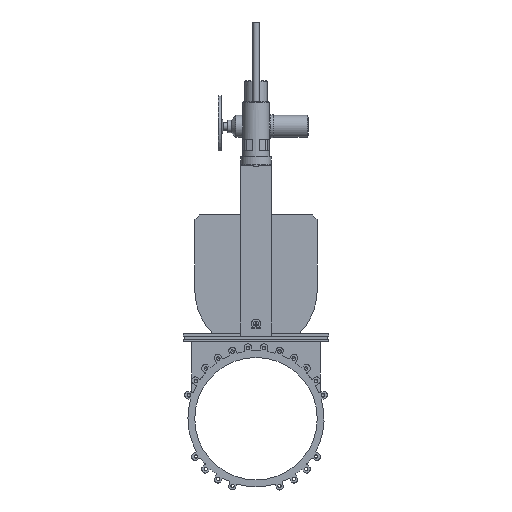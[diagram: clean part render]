
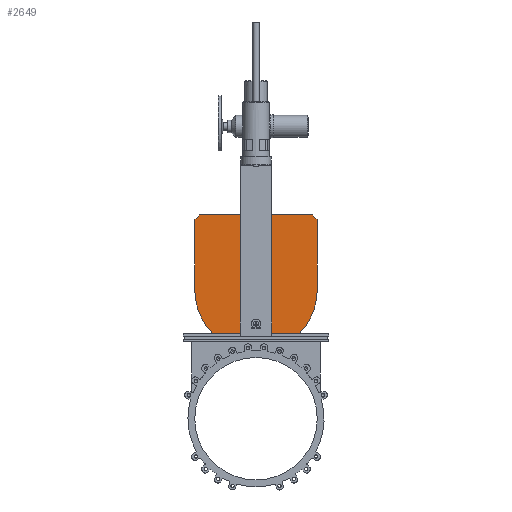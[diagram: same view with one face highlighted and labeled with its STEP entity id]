
A CAD part, front view. The second image highlights one B-rep face of the part: STEP entity #2649.
In plain terms, the highlighted planar face has unit normal (0, -1, 0).
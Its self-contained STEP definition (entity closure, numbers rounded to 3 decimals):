
#2649=ADVANCED_FACE('',(#6391),#6393,.T.);
#6391=FACE_BOUND('',#6392,.T.);
#6392=EDGE_LOOP('',(#9331,#9332,#9333,#9334,#9335,#9336,#9337,#9338,#9339,#9340,
#9341,#9342));
#6393=PLANE('',#6394);
#6394=AXIS2_PLACEMENT_3D('',#6395,#6396,#6397);
#6395=CARTESIAN_POINT('',(0.,-7.,0.));
#6396=DIRECTION('',(0.,-1.,0.));
#6397=DIRECTION('',(1.,0.,0.));
#9331=ORIENTED_EDGE('',*,*,#11648,.F.);
#9332=ORIENTED_EDGE('',*,*,#11649,.T.);
#9333=ORIENTED_EDGE('',*,*,#11650,.T.);
#9334=ORIENTED_EDGE('',*,*,#11651,.F.);
#9335=ORIENTED_EDGE('',*,*,#11652,.T.);
#9336=ORIENTED_EDGE('',*,*,#11634,.F.);
#9337=ORIENTED_EDGE('',*,*,#11653,.F.);
#9338=ORIENTED_EDGE('',*,*,#11625,.F.);
#9339=ORIENTED_EDGE('',*,*,#11647,.T.);
#9340=ORIENTED_EDGE('',*,*,#11654,.F.);
#9341=ORIENTED_EDGE('',*,*,#11655,.T.);
#9342=ORIENTED_EDGE('',*,*,#11656,.T.);
#11625=EDGE_CURVE('',#14810,#14812,#14813,.T.);
#11634=EDGE_CURVE('',#14825,#14827,#14828,.T.);
#11647=EDGE_CURVE('',#14810,#14848,#14850,.T.);
#11648=EDGE_CURVE('',#14851,#14852,#14853,.T.);
#11649=EDGE_CURVE('',#14851,#14854,#14855,.T.);
#11650=EDGE_CURVE('',#14854,#14856,#14857,.T.);
#11651=EDGE_CURVE('',#14858,#14856,#14859,.F.);
#11652=EDGE_CURVE('',#14858,#14827,#14860,.T.);
#11653=EDGE_CURVE('',#14812,#14825,#14861,.F.);
#11654=EDGE_CURVE('',#14862,#14848,#14863,.F.);
#11655=EDGE_CURVE('',#14862,#14864,#14865,.T.);
#11656=EDGE_CURVE('',#14864,#14852,#14866,.T.);
#14810=VERTEX_POINT('',#16406);
#14812=VERTEX_POINT('',#16410);
#14813=LINE('',#16411,#16412);
#14825=VERTEX_POINT('',#16439);
#14827=VERTEX_POINT('',#16443);
#14828=LINE('',#16444,#16445);
#14848=VERTEX_POINT('',#16490);
#14850=LINE('',#16494,#16495);
#14851=VERTEX_POINT('',#16497);
#14852=VERTEX_POINT('',#16498);
#14853=LINE('',#16499,#16500);
#14854=VERTEX_POINT('',#16502);
#14855=CIRCLE('',#16503,500.);
#14856=VERTEX_POINT('',#16507);
#14857=LINE('',#16508,#16509);
#14858=VERTEX_POINT('',#16511);
#14859=LINE('',#16512,#16513);
#14860=LINE('',#16515,#16516);
#14861=LINE('',#16518,#16519);
#14862=VERTEX_POINT('',#16521);
#14863=LINE('',#16522,#16523);
#14864=VERTEX_POINT('',#16525);
#14865=LINE('',#16526,#16527);
#14866=CIRCLE('',#16529,500.);
#16406=CARTESIAN_POINT('',(-35.,-7.,1665.));
#16410=CARTESIAN_POINT('',(-35.,-7.,1660.));
#16411=CARTESIAN_POINT('',(-35.,-7.,1665.));
#16412=VECTOR('',#16413,1.);
#16413=DIRECTION('',(0.,0.,-1.));
#16439=CARTESIAN_POINT('',(35.,-7.,1660.));
#16443=CARTESIAN_POINT('',(35.,-7.,1665.));
#16444=CARTESIAN_POINT('',(35.,-7.,1660.));
#16445=VECTOR('',#16446,1.);
#16446=DIRECTION('',(0.,0.,1.));
#16490=CARTESIAN_POINT('',(-460.,-7.,1665.));
#16494=CARTESIAN_POINT('',(-35.,-7.,1665.));
#16495=VECTOR('',#16496,1.);
#16496=DIRECTION('',(-1.,0.,0.));
#16497=CARTESIAN_POINT('',(352.101,-7.,695.));
#16498=CARTESIAN_POINT('',(-352.101,-7.,695.));
#16499=CARTESIAN_POINT('',(352.101,-7.,695.));
#16500=VECTOR('',#16501,1.);
#16501=DIRECTION('',(-1.,0.,0.));
#16502=CARTESIAN_POINT('',(500.,-7.,1050.));
#16503=AXIS2_PLACEMENT_3D('',#16504,#16505,#16506);
#16504=CARTESIAN_POINT('',(0.,-7.,1050.));
#16505=DIRECTION('',(0.,-1.,0.));
#16506=DIRECTION('',(0.704,0.,-0.71));
#16507=CARTESIAN_POINT('',(500.,-7.,1625.));
#16508=CARTESIAN_POINT('',(500.,-7.,1050.));
#16509=VECTOR('',#16510,1.);
#16510=DIRECTION('',(0.,0.,1.));
#16511=CARTESIAN_POINT('',(460.,-7.,1665.));
#16512=CARTESIAN_POINT('',(500.,-7.,1625.));
#16513=VECTOR('',#16514,1.);
#16514=DIRECTION('',(-0.707,0.,0.707));
#16515=CARTESIAN_POINT('',(460.,-7.,1665.));
#16516=VECTOR('',#16517,1.);
#16517=DIRECTION('',(-1.,0.,0.));
#16518=CARTESIAN_POINT('',(35.,-7.,1660.));
#16519=VECTOR('',#16520,1.);
#16520=DIRECTION('',(-1.,0.,0.));
#16521=CARTESIAN_POINT('',(-500.,-7.,1625.));
#16522=CARTESIAN_POINT('',(-460.,-7.,1665.));
#16523=VECTOR('',#16524,1.);
#16524=DIRECTION('',(-0.707,0.,-0.707));
#16525=CARTESIAN_POINT('',(-500.,-7.,1050.));
#16526=CARTESIAN_POINT('',(-500.,-7.,1625.));
#16527=VECTOR('',#16528,1.);
#16528=DIRECTION('',(0.,0.,-1.));
#16529=AXIS2_PLACEMENT_3D('',#16530,#16531,#16532);
#16530=CARTESIAN_POINT('',(0.,-7.,1050.));
#16531=DIRECTION('',(0.,-1.,0.));
#16532=DIRECTION('',(-1.,0.,0.));
